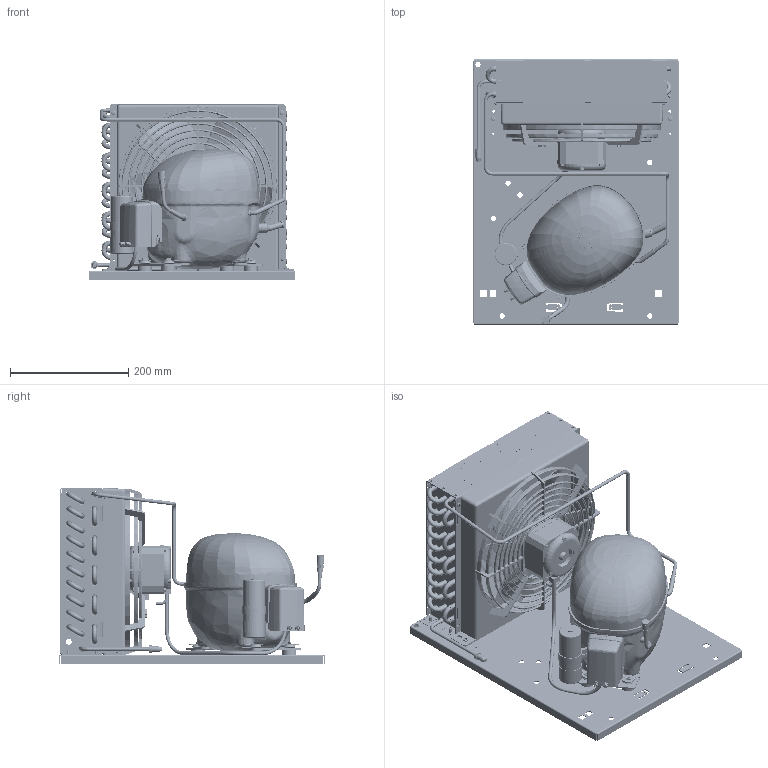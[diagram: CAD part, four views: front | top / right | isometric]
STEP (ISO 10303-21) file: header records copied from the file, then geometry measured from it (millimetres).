
FILE_DESCRIPTION(/* description */ ('Unknown'),/* implementation_level */ '2;1');
FILE_NAME(/* name */ '2298-0033',/* time_stamp */ '2021-12-15T09:26:21+01:00',/* author */ ('Unknown'),/* organization */ ('Unknown'),/* preprocessor_version */ 'ST-DEVELOPER v16.7',/* originating_system */ 'Solid Edge',/* authorisation */ 'Unknown');
FILE_SCHEMA (('AUTOMOTIVE_DESIGN {1 0 10303 214 3 1 1}'));
Products named in the file (34): 2298-0033; 92505122_oa_0; NLE12.6MF2-A-CSIR; 1130270f70; r50112006; r50112007; 2990210; r59700314; r50112001; r50004308; 99000000_piccola; cg254n; A254-22; 99540000; 84v1.8x35xxcopf00; 99540010; 84RM10X21XXPIAF00; sc18cl-a-csr_piedino; 84a4.2x9.5xtbcf01; 84t4.8x8xxxtcca00_oa_1; 84t4.8x8xxxtcca00_oa_2; 84t4.8x8xxxtcca00_oa_3; 84t4.8x8xxxtcca00_oa_4; 99510255_Curva120°; 8351_2; 99510255_Tubo_Curva120°; 8392_A; 84dm4x3.6xxesrf00; 99000082_secop; 680063692; 99000082_SECOP_F-GAS; 680065423; NET3T16PVN018; 2298-0033_CAVO_VENTOLA
Assembly tree (78 placements, depth 3):
  2298-0033
    92505122_oa_0
    NLE12.6MF2-A-CSIR
    1130270f70
      r50112006
      r50112007
      2990210  x15
      r59700314  x16
      r50112001
      r50004308
      99000000_piccola
    cg254n
    A254-22
    99540000
    84v1.8x35xxcopf00  x4
    99540010
    84RM10X21XXPIAF00  x4
    sc18cl-a-csr_piedino  x4
    84a4.2x9.5xtbcf01  x4
    84t4.8x8xxxtcca00_oa_1
    84t4.8x8xxxtcca00_oa_2
    84t4.8x8xxxtcca00_oa_3
    84t4.8x8xxxtcca00_oa_4
    99510255_Curva120°
      8351_2
      99510255_Tubo_Curva120°
      8392_A
    84dm4x3.6xxesrf00  x4
    8392_A
    99000082_secop
    680063692
    99000082_SECOP_F-GAS
    680065423
    NET3T16PVN018
    2298-0033_CAVO_VENTOLA
Bounding box: 350 x 450 x 297.36 mm (x, y, z)
Volume: 5283903.6 mm3; surface area: 2329750.1 mm2
Topology: 82 solids, 83 shells, 7862 faces, 20173 edges, 12991 vertices
Faces by surface type: plane 4593, cylinder 1297, bspline 1055, torus 469, cone 346, sphere 102
Full cylindrical faces by diameter (mm): 1 x2, 1.8 x20, 1.869 x1, 1.951 x1, 2.2 x8, 2.27 x3, 2.277 x3, 2.286 x1, 2.7 x4, 3 x5, 3.2 x1, 3.242 x4, 3.4 x4, 3.5 x16, 3.6 x4, 3.962 x1, 4 x16, 4.064 x1, 4.1 x1, 4.2 x12, 4.255 x3, 4.5 x6, 4.66 x4, 4.7 x4, 4.8 x2, 5 x16, 5.4 x4, 5.5 x19, 5.69 x1, 5.9 x1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
Entity records: 328750 total; most frequent: CARTESIAN_POINT 142875, ORIENTED_EDGE 36112, DIRECTION 26948, EDGE_CURVE 18056, VERTEX_POINT 12055, AXIS2_PLACEMENT_3D 9541, EDGE_LOOP 9317, FACE_BOUND 9317
